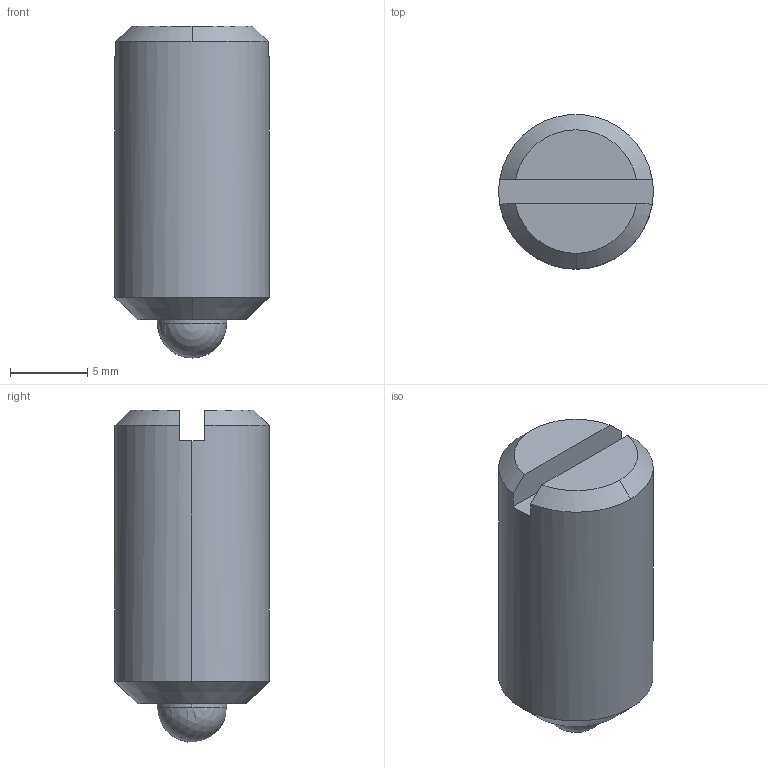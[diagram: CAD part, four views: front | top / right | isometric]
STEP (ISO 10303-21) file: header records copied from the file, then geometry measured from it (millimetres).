
FILE_DESCRIPTION (( 'STEP AP203' ), '1' );
FILE_NAME ('lsplh10-sus.STEP', '2021-10-25T02:58:48', ( '' ), ( '' ), 'SwSTEP 2.0', 'SolidWorks 2020', '' );
FILE_SCHEMA (( 'CONFIG_CONTROL_DESIGN' ));
Length unit declared in the file: millimetre
Products named in the file (1): lsplh10-sus
Bounding box: 10 x 10 x 21.48 mm (x, y, z)
Volume: 1445.3 mm3; surface area: 757.2 mm2
Topology: 1 solids, 1 shells, 16 faces, 43 edges, 28 vertices
Faces by surface type: plane 6, cone 5, cylinder 4, sphere 1
Entity records: 564 total; most frequent: CARTESIAN_POINT 94, DIRECTION 89, ORIENTED_EDGE 78, EDGE_CURVE 39, AXIS2_PLACEMENT_3D 37, VERTEX_POINT 26, CIRCLE 20, EDGE_LOOP 17
